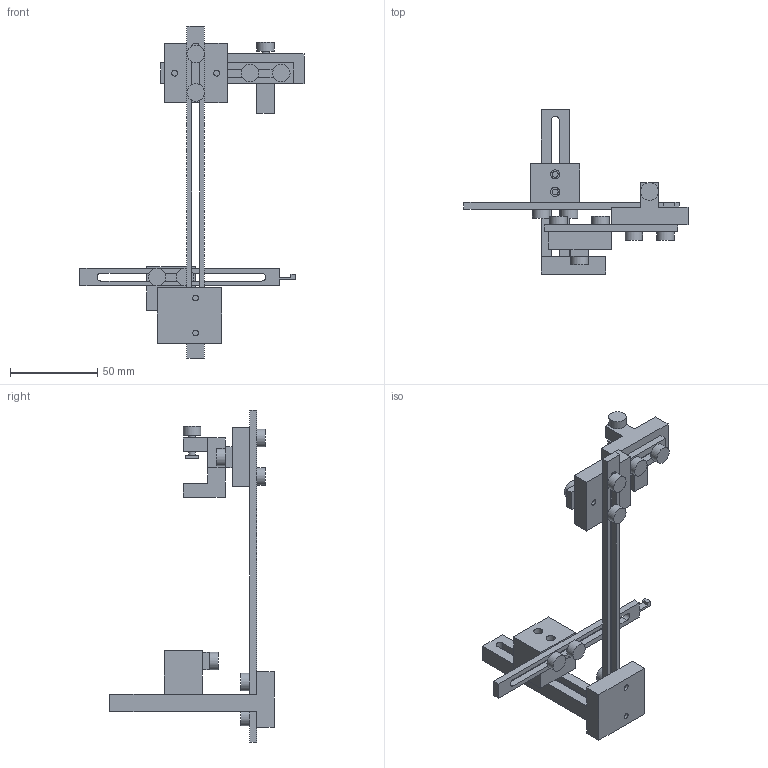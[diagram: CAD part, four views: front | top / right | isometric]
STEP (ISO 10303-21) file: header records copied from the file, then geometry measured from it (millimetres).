
FILE_DESCRIPTION(('Open CASCADE Model'),'2;1');
FILE_NAME('Open CASCADE Shape Model','2026-11-08T06:44:03',('Author'),( 'Open CASCADE'),'Open CASCADE STEP processor 7.8','Open CASCADE 7.8' ,'Unknown');
FILE_SCHEMA(('AUTOMOTIVE_DESIGN { 1 0 10303 214 1 1 1 1 }'));
Length unit declared in the file: millimetre
Products named in the file (22): L_with_M4x12_REFERENCE; 01_clamp_body_T14; 02_protective_pad; 03_horizontal_bar; 04_corner; 05_vertical_rail_190; 06_ribbed_depth_carriage; 07_cross_slide_carriage; 08_sliding_target_flag; M4x12_A_01; M4x12_A_02; M4x12_B_03; M4x12_B_04; M4x12_C_05; M4x12_C_06; M4x12_D_07; M4x12_D_08; M4x12_E_09; M4x12_E_10; M4x12_F_11; M4x12_F_12; M4x12_P_13
Assembly tree (21 placements, depth 2):
  L_with_M4x12_REFERENCE
    01_clamp_body_T14
    02_protective_pad
    03_horizontal_bar
    04_corner
    05_vertical_rail_190
    06_ribbed_depth_carriage
    07_cross_slide_carriage
    08_sliding_target_flag
    M4x12_A_01
    M4x12_A_02
    M4x12_B_03
    M4x12_B_04
    M4x12_C_05
    M4x12_C_06
    M4x12_D_07
    M4x12_D_08
    M4x12_E_09
    M4x12_E_10
    M4x12_F_11
    M4x12_F_12
    M4x12_P_13
Bounding box: 128.2 x 94 x 190 mm (x, y, z)
Volume: 71619.8 mm3; surface area: 40436.2 mm2
Topology: 21 solids, 21 shells, 178 faces, 360 edges, 240 vertices
Faces by surface type: plane 126, cylinder 52
Full cylindrical faces by diameter (mm): 3.3 x13, 4 x13, 4.4 x1, 5.2 x4, 10 x13
Entity records: 10115 total; most frequent: CARTESIAN_POINT 1910, DIRECTION 1519, LINE 872, VECTOR 872, ORIENTED_EDGE 720, PCURVE 720, DEFINITIONAL_REPRESENTATION 720, EDGE_CURVE 360
